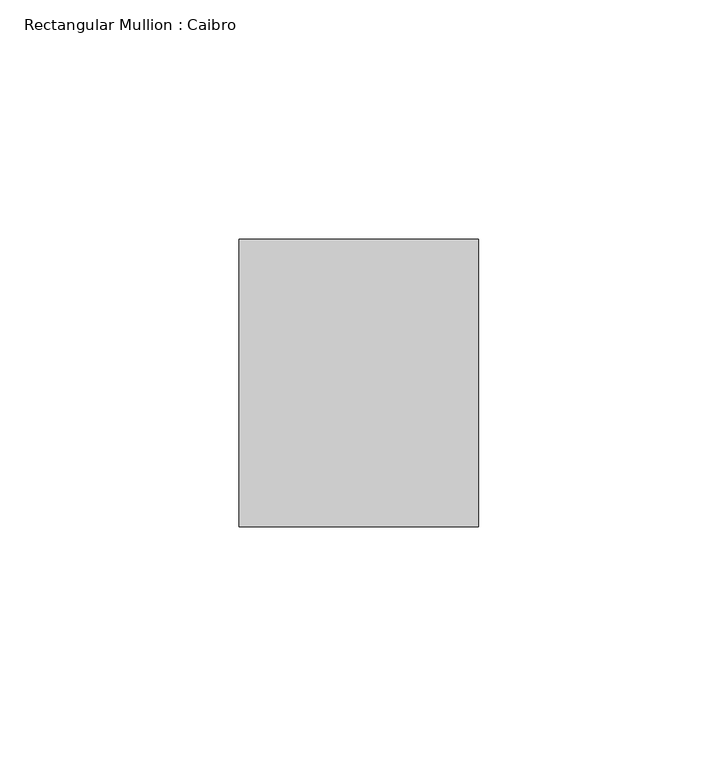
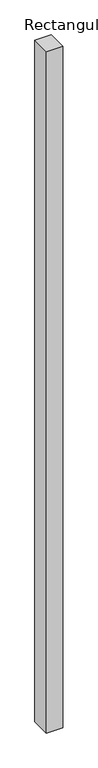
"""IFC4 building model written with IfcOpenShell, lengths in millimetres: member geometry, Rectangular Mullion : Caibro."""

from ifc_helpers import new_model, si_unit, frame, origin, place, context, project, spatial, polyline, outline, extrude, source, transform, mapped, element, save


def rectangular_mullion_caibro_0993a3cf(model_context):
    return source(origin(), model_context, "Body", "SweptSolid", [
        extrude(outline(polyline([(-25.0, -60.0), (-25.0, 0.0), (25.0, 0.0), (25.0, -60.0), (-25.0, -60.0)])), frame((0.0, 0.0, -2189.7393248), z_axis=(0.0, 0.0, 1.0), x_axis=(1.0, 0.0, 0.0)), (0.0, 0.0, 1.0), 2189.7393248),
    ])


if __name__ == "__main__":
    model = new_model("IFC4")
    model_context = context("Model", 3, world=origin())
    ifc_project = project(units=[si_unit("LENGTHUNIT", "METRE", prefix="MILLI")], contexts=[model_context])
    site = spatial("IfcSite", under=ifc_project)
    building = spatial("IfcBuilding", under=site)
    placement = place(None, origin())
    rectangular_mullion_caibro_shape = rectangular_mullion_caibro_0993a3cf(model_context)
    element("IfcMember", 1, ObjectType="Rectangular Mullion : Caibro", at=placement, inside=building, context=model_context, shape_type="MappedRepresentation", body=[
        mapped(rectangular_mullion_caibro_shape, transform((0.0, 0.0, 0.0), x_axis=(1.0, 0.0, 0.0), y_axis=(0.0, 1.0, 0.0), z_axis=(0.0, 0.0, 1.0))),
    ])
    save(model, "model.ifc")
